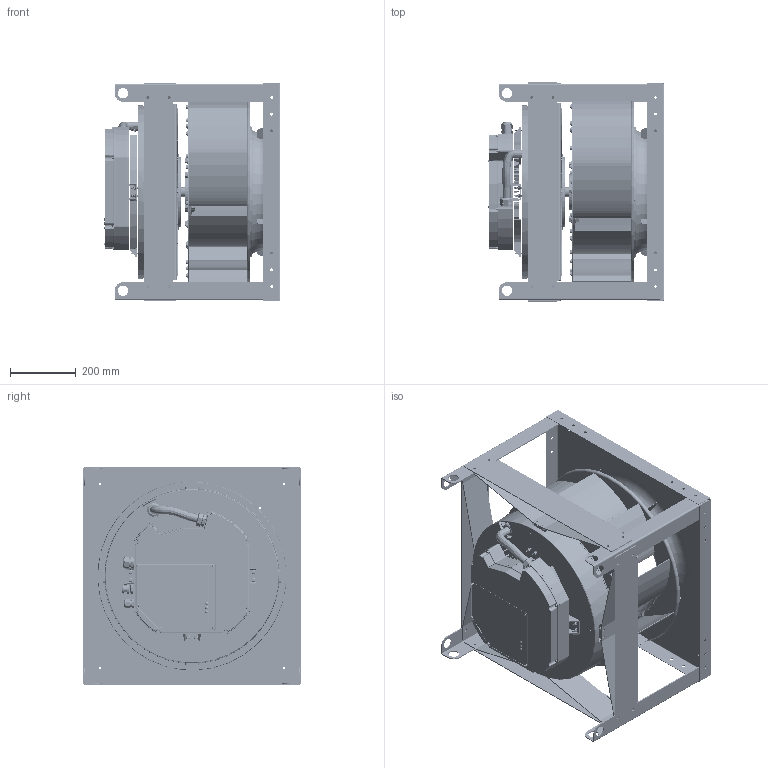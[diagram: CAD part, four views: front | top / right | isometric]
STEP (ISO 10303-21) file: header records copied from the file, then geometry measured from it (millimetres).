
FILE_DESCRIPTION (( 'STEP AP214' ), '1' );
FILE_NAME ('655772.STEP', '2026-04-07T20:29:26', ( '' ), ( '' ), 'SwSTEP 2.0', 'SolidWorks 2023', '' );
FILE_SCHEMA (( 'AUTOMOTIVE_DESIGN' ));
Length unit declared in the file: inch
Products named in the file (19): SXP22 FP_651389; 941770_BUSHING  TB2012 X 1.125; 655772; SXP22 INLET_651414; SXP22 BLADE_651387; SXP22 WHEEL WELDMENT_655574; 651587_651587; SXP22 INLET ASSY_655579; 941153_941153; SXP22 BAFFLE_651419; SXP22 WHEEL ASSY_655589; 925959CS_925959CS; 651588_651588; 941044_941044; 941768_941768; SXP22 BP_651390; 651583_651583; 941156_941156; SXPI STRAP_651579
Assembly tree (83 placements, depth 4):
  655772
    651587_651587
    SXP22 INLET ASSY_655579
      SXP22 INLET_651414
      SXP22 BAFFLE_651419  x4
    SXP22 WHEEL ASSY_655589
      SXP22 WHEEL WELDMENT_655574
        SXP22 FP_651389
        SXP22 BLADE_651387  x9
        SXP22 BP_651390
        941044_941044  x36
      941153_941153  x6
      941156_941156  x6
      941768_941768
    925959CS_925959CS
    651588_651588  x4
    941770_BUSHING  TB2012 X 1.125
    651583_651583  x4
    SXPI STRAP_651579  x4
Bounding box: 536.78 x 663.7 x 663.7 mm (x, y, z)
Volume: 6868947.6 mm3; surface area: 6257973.3 mm2
Topology: 79 solids, 371 shells, 7089 faces, 21052 edges, 14188 vertices
Faces by surface type: plane 2788, cylinder 1714, bspline 1439, cone 782, torus 298, sphere 68
Full cylindrical faces by diameter (mm): 2.9 x2, 3.962 x10, 4.762 x3, 4.763 x15, 5.105 x16, 6 x37, 6.35 x36, 7 x5, 7.137 x16, 7.544 x1, 7.937 x3, 7.938 x1, 8.5 x1, 8.738 x87, 9 x4, 9.525 x12, 9.73 x8, 10 x8, 10.1 x1, 11.8 x16, 12.5 x1, 12.6 x1, 13 x15, 13.208 x36, 14 x1, 14.097 x6, 17.462 x2, 17.463 x2, 19.05 x6, 20.32 x10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
Entity records: 277313 total; most frequent: CARTESIAN_POINT 182626, ORIENTED_EDGE 18674, DIRECTION 17019, EDGE_CURVE 11725, VERTEX_POINT 8394, AXIS2_PLACEMENT_3D 6819, EDGE_LOOP 4850, FACE_OUTER_BOUND 4114
